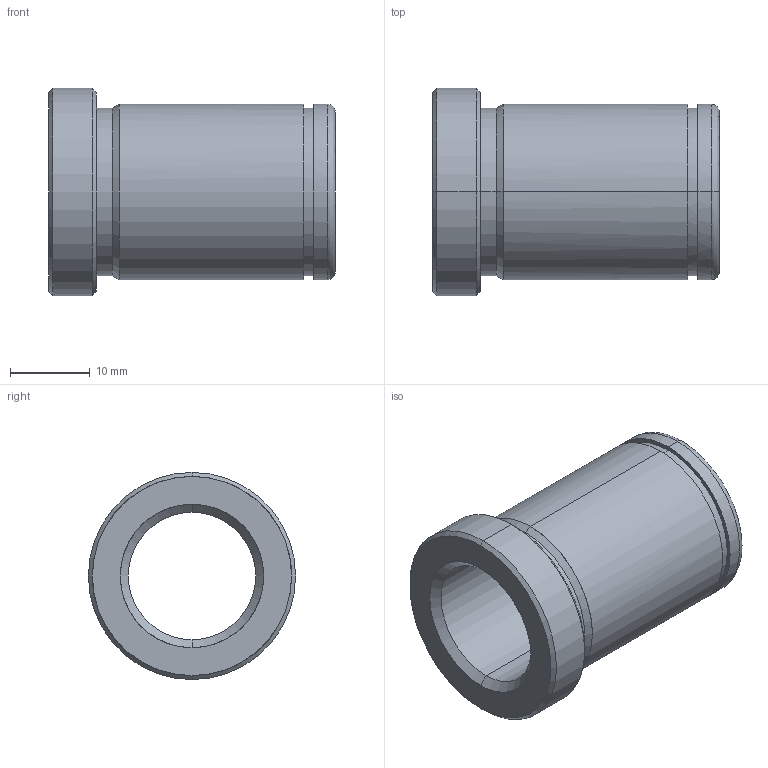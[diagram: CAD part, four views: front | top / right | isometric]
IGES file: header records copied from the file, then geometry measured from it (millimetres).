
Start section: START RECORD GO HERE.
Global section: file name: 553-16X36.igs; native system: DASSAULT SYSTEMES CATIA V5 R20 - www.3ds.com; preprocessor: CATIA Version 5 Release 20 ; author: Utente; organization: NB04-ASUS; date: 20210521.205801; units: millimetre
Bounding box: 36 x 26 x 26 mm (x, y, z)
Surface area: 4993.4 mm2 (no closed solid volume)
Topology: 0 solids, 0 shells, 29 faces, 184 edges, 184 vertices
Faces by surface type: revolution 24, plane 5
